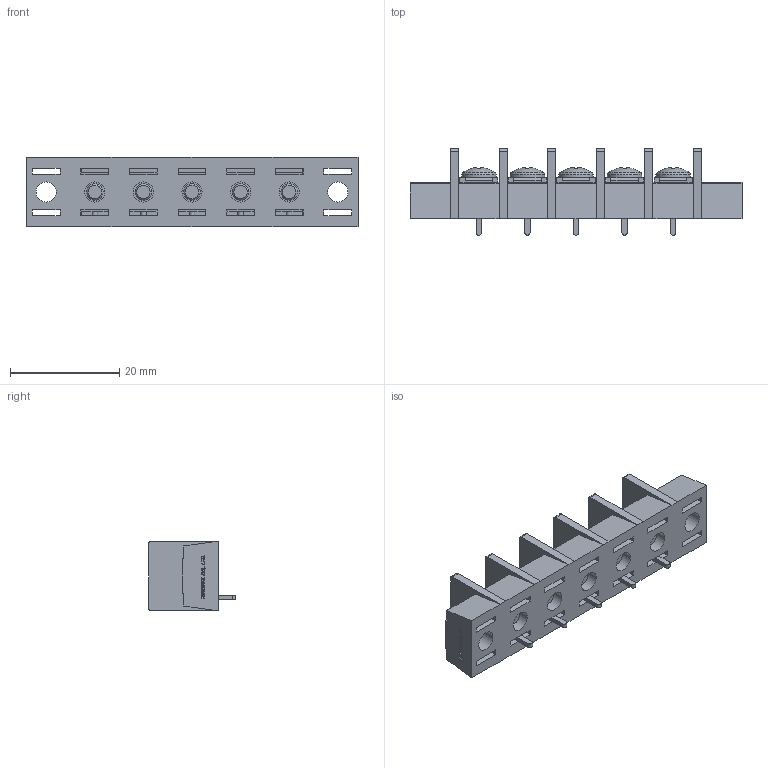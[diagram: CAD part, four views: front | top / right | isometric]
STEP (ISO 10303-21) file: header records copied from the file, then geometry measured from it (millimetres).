
FILE_DESCRIPTION(/* description */ ('Alibre Inc.'),/* implementation_level */ '2;1');
FILE_NAME(/* name */ 'export0',/* time_stamp */ '2015-10-20T19:50:14+09:00',/* author */ (''),/* organization */ (''),/* preprocessor_version */ 'ST-DEVELOPER v14',/* originating_system */ 'Alibre',/* authorisation */ '');
FILE_SCHEMA (('CONFIG_CONTROL_DESIGN'));
Length unit declared in the file: centimetre
Products named in the file (1): ID_1
Bounding box: 60.74 x 15.8 x 12.8 mm (x, y, z)
Volume: 5160.6 mm3; surface area: 6379.9 mm2
Topology: 1 solids, 86 shells, 1817 faces, 4687 edges, 3104 vertices
Faces by surface type: plane 1357, bspline 364, cylinder 56, cone 25, torus 10, sphere 5
Full cylindrical faces by diameter (mm): 3 x10, 3.7 x7, 4.6 x7, 6.3 x5
Entity records: 52818 total; most frequent: CARTESIAN_POINT 12822, ORIENTED_EDGE 9252, DIRECTION 5496, EDGE_CURVE 4626, VECTOR 3579, LINE 3579, VERTEX_POINT 3087, EDGE_LOOP 2005
